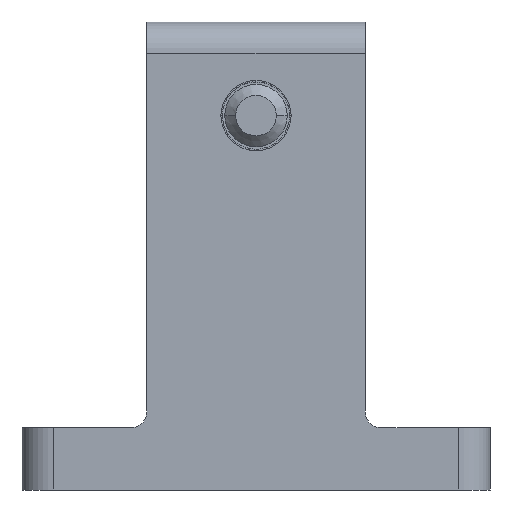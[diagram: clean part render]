
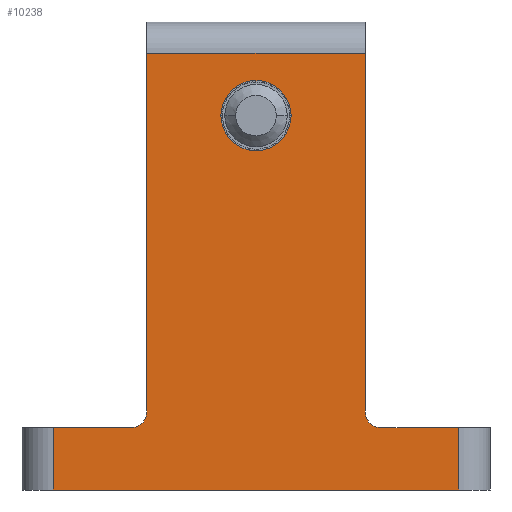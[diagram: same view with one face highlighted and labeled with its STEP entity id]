
A CAD part, front view. The second image highlights one B-rep face of the part: STEP entity #10238.
In plain terms, the highlighted planar face has unit normal (0, -1, 0).
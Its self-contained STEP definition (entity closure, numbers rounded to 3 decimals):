
#62 = VERTEX_POINT ( 'NONE', #7792 ) ;
#126 = DIRECTION ( 'NONE',  ( 0., 0., -1. ) ) ;
#190 = CARTESIAN_POINT ( 'NONE',  ( 38.846, 21.216, 13. ) ) ;
#590 = CARTESIAN_POINT ( 'NONE',  ( 18.846, 21.216, -1. ) ) ;
#779 = AXIS2_PLACEMENT_3D ( 'NONE', #11325, #5711, #126 ) ;
#821 = AXIS2_PLACEMENT_3D ( 'NONE', #9629, #1891, #10307 ) ;
#1050 = ORIENTED_EDGE ( 'NONE', *, *, #8442, .T. ) ;
#1082 = VECTOR ( 'NONE', #2033, 1000. ) ;
#1088 = DIRECTION ( 'NONE',  ( 0., -1., 0. ) ) ;
#1094 = ORIENTED_EDGE ( 'NONE', *, *, #8714, .T. ) ;
#1247 = CARTESIAN_POINT ( 'NONE',  ( 38.846, 21.216, -10. ) ) ;
#1338 = CIRCLE ( 'NONE', #821, 2.25 ) ;
#1372 = LINE ( 'NONE', #9467, #1082 ) ;
#1389 = AXIS2_PLACEMENT_3D ( 'NONE', #6672, #1088, #7635 ) ;
#1752 = ORIENTED_EDGE ( 'NONE', *, *, #3955, .F. ) ;
#1865 = EDGE_CURVE ( 'NONE', #2429, #3283, #1372, .T. ) ;
#1891 = DIRECTION ( 'NONE',  ( 0., -1., 0. ) ) ;
#1992 = ORIENTED_EDGE ( 'NONE', *, *, #2411, .F. ) ;
#2033 = DIRECTION ( 'NONE',  ( -1., 0., 0. ) ) ;
#2265 = FACE_BOUND ( 'NONE', #2596, .T. ) ;
#2280 = CARTESIAN_POINT ( 'NONE',  ( 18.846, 21.216, -15. ) ) ;
#2342 = DIRECTION ( 'NONE',  ( 0., -1., 0. ) ) ;
#2411 = EDGE_CURVE ( 'NONE', #7682, #9286, #1338, .T. ) ;
#2429 = VERTEX_POINT ( 'NONE', #5364 ) ;
#2581 = DIRECTION ( 'NONE',  ( 1., 0., 0. ) ) ;
#2596 = EDGE_LOOP ( 'NONE', ( #1992, #4092 ) ) ;
#2657 = CARTESIAN_POINT ( 'NONE',  ( 31.846, 21.216, 9. ) ) ;
#2709 = VERTEX_POINT ( 'NONE', #4618 ) ;
#2943 = DIRECTION ( 'NONE',  ( 0., 0., 1. ) ) ;
#2958 = EDGE_CURVE ( 'NONE', #3860, #4306, #4087, .T. ) ;
#3014 = CARTESIAN_POINT ( 'NONE',  ( 38.846, 21.216, -1. ) ) ;
#3266 = CARTESIAN_POINT ( 'NONE',  ( 31.846, 21.216, -11. ) ) ;
#3283 = VERTEX_POINT ( 'NONE', #6054 ) ;
#3374 = DIRECTION ( 'NONE',  ( 0., 0., -1. ) ) ;
#3434 = LINE ( 'NONE', #3266, #5934 ) ;
#3573 = DIRECTION ( 'NONE',  ( 0., 0., 1. ) ) ;
#3628 = VERTEX_POINT ( 'NONE', #6487 ) ;
#3681 = ORIENTED_EDGE ( 'NONE', *, *, #8343, .T. ) ;
#3860 = VERTEX_POINT ( 'NONE', #1247 ) ;
#3955 = EDGE_CURVE ( 'NONE', #9452, #62, #8250, .T. ) ;
#4078 = DIRECTION ( 'NONE',  ( 0., 0., 1. ) ) ;
#4087 = LINE ( 'NONE', #3014, #11281 ) ;
#4092 = ORIENTED_EDGE ( 'NONE', *, *, #8466, .F. ) ;
#4213 = ORIENTED_EDGE ( 'NONE', *, *, #4467, .T. ) ;
#4252 = VECTOR ( 'NONE', #3374, 1000. ) ;
#4296 = CARTESIAN_POINT ( 'NONE',  ( 24.846, 21.216, -1. ) ) ;
#4306 = VERTEX_POINT ( 'NONE', #190 ) ;
#4467 = EDGE_CURVE ( 'NONE', #4306, #8336, #6003, .T. ) ;
#4477 = FACE_OUTER_BOUND ( 'NONE', #8058, .T. ) ;
#4618 = CARTESIAN_POINT ( 'NONE',  ( 18.846, 21.216, -11. ) ) ;
#4679 = ORIENTED_EDGE ( 'NONE', *, *, #10497, .T. ) ;
#5364 = CARTESIAN_POINT ( 'NONE',  ( 44.846, 21.216, -11. ) ) ;
#5711 = DIRECTION ( 'NONE',  ( 0., -1., 0. ) ) ;
#5728 = CARTESIAN_POINT ( 'NONE',  ( 23.846, 21.216, -11. ) ) ;
#5934 = VECTOR ( 'NONE', #10708, 1000. ) ;
#6003 = LINE ( 'NONE', #9785, #10670 ) ;
#6054 = CARTESIAN_POINT ( 'NONE',  ( 39.846, 21.216, -11. ) ) ;
#6077 = EDGE_CURVE ( 'NONE', #3628, #2429, #8636, .T. ) ;
#6178 = CARTESIAN_POINT ( 'NONE',  ( 24.846, 21.216, 13. ) ) ;
#6428 = LINE ( 'NONE', #4296, #8647 ) ;
#6465 = ORIENTED_EDGE ( 'NONE', *, *, #6077, .T. ) ;
#6487 = CARTESIAN_POINT ( 'NONE',  ( 44.846, 21.216, -15. ) ) ;
#6672 = CARTESIAN_POINT ( 'NONE',  ( 39.846, 21.216, -10. ) ) ;
#6882 = LINE ( 'NONE', #8233, #11602 ) ;
#6903 = DIRECTION ( 'NONE',  ( -1., 0., 0. ) ) ;
#7194 = CARTESIAN_POINT ( 'NONE',  ( 31.846, 21.216, 6.75 ) ) ;
#7635 = DIRECTION ( 'NONE',  ( 0., 0., -1. ) ) ;
#7682 = VERTEX_POINT ( 'NONE', #8549 ) ;
#7792 = CARTESIAN_POINT ( 'NONE',  ( 24.846, 21.216, -10. ) ) ;
#7958 = CARTESIAN_POINT ( 'NONE',  ( 23.846, 21.216, -10. ) ) ;
#8032 = DIRECTION ( 'NONE',  ( 0., 0., -1. ) ) ;
#8058 = EDGE_LOOP ( 'NONE', ( #1050, #6465, #9568, #11591, #11791, #4213, #1094, #1752, #4679, #3681 ) ) ;
#8233 = CARTESIAN_POINT ( 'NONE',  ( 31.846, 21.216, -15. ) ) ;
#8250 = CIRCLE ( 'NONE', #11013, 1. ) ;
#8283 = CIRCLE ( 'NONE', #1389, 1. ) ;
#8336 = VERTEX_POINT ( 'NONE', #6178 ) ;
#8343 = EDGE_CURVE ( 'NONE', #2709, #9158, #11755, .T. ) ;
#8442 = EDGE_CURVE ( 'NONE', #9158, #3628, #6882, .T. ) ;
#8466 = EDGE_CURVE ( 'NONE', #9286, #7682, #9390, .T. ) ;
#8549 = CARTESIAN_POINT ( 'NONE',  ( 31.846, 21.216, 11.25 ) ) ;
#8636 = LINE ( 'NONE', #10604, #11129 ) ;
#8647 = VECTOR ( 'NONE', #8032, 1000. ) ;
#8714 = EDGE_CURVE ( 'NONE', #8336, #62, #6428, .T. ) ;
#8906 = DIRECTION ( 'NONE',  ( 0., 0., -1. ) ) ;
#9158 = VERTEX_POINT ( 'NONE', #2280 ) ;
#9214 = DIRECTION ( 'NONE',  ( 0., -1., 0. ) ) ;
#9286 = VERTEX_POINT ( 'NONE', #7194 ) ;
#9390 = CIRCLE ( 'NONE', #10944, 2.25 ) ;
#9452 = VERTEX_POINT ( 'NONE', #5728 ) ;
#9467 = CARTESIAN_POINT ( 'NONE',  ( 31.846, 21.216, -11. ) ) ;
#9568 = ORIENTED_EDGE ( 'NONE', *, *, #1865, .T. ) ;
#9629 = CARTESIAN_POINT ( 'NONE',  ( 31.846, 21.216, 9. ) ) ;
#9785 = CARTESIAN_POINT ( 'NONE',  ( 31.846, 21.216, 13. ) ) ;
#10238 = ADVANCED_FACE ( 'NONE', ( #2265, #4477 ), #10312, .T. ) ;
#10254 = EDGE_CURVE ( 'NONE', #3860, #3283, #8283, .T. ) ;
#10307 = DIRECTION ( 'NONE',  ( 0., 0., 1. ) ) ;
#10312 = PLANE ( 'NONE',  #779 ) ;
#10497 = EDGE_CURVE ( 'NONE', #9452, #2709, #3434, .T. ) ;
#10604 = CARTESIAN_POINT ( 'NONE',  ( 44.846, 21.216, -1. ) ) ;
#10670 = VECTOR ( 'NONE', #6903, 1000. ) ;
#10708 = DIRECTION ( 'NONE',  ( -1., 0., 0. ) ) ;
#10944 = AXIS2_PLACEMENT_3D ( 'NONE', #2657, #9214, #3573 ) ;
#11013 = AXIS2_PLACEMENT_3D ( 'NONE', #7958, #2342, #8906 ) ;
#11129 = VECTOR ( 'NONE', #4078, 1000. ) ;
#11281 = VECTOR ( 'NONE', #2943, 1000. ) ;
#11325 = CARTESIAN_POINT ( 'NONE',  ( 18.846, 21.216, 13. ) ) ;
#11591 = ORIENTED_EDGE ( 'NONE', *, *, #10254, .F. ) ;
#11602 = VECTOR ( 'NONE', #2581, 1000. ) ;
#11755 = LINE ( 'NONE', #590, #4252 ) ;
#11791 = ORIENTED_EDGE ( 'NONE', *, *, #2958, .T. ) ;
